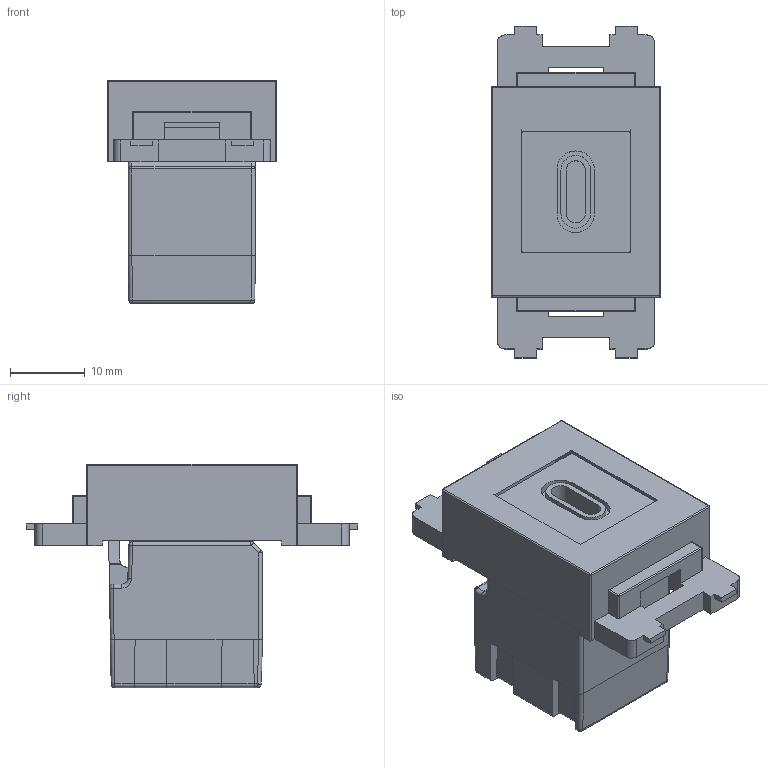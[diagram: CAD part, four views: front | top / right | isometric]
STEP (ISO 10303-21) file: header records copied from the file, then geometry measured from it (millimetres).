
FILE_DESCRIPTION(('FreeCAD Model'),'2;1');
FILE_NAME('Open CASCADE Shape Model','2026-05-12T09:44:00',(''),(''), 'Open CASCADE STEP processor 7.8','FreeCAD','Unknown');
FILE_SCHEMA(('AUTOMOTIVE_DESIGN { 1 0 10303 214 1 1 1 1 }'));
Length unit declared in the file: millimetre
Products named in the file (3): CC_USB3C_XX_KV_2; SY-NWT-KV-xx; SY-USB-31-C-WH
Assembly tree (2 placements, depth 2):
  CC_USB3C_XX_KV_2
    SY-NWT-KV-xx
    SY-USB-31-C-WH
Bounding box: 22.65 x 44.3 x 29.8 mm (x, y, z)
Volume: 12117.3 mm3; surface area: 7753.9 mm2
Topology: 4 solids, 4 shells, 284 faces, 1501 edges, 3502 vertices
Faces by surface type: bspline 284
Entity records: 28008 total; most frequent: CARTESIAN_POINT 19050, B_SPLINE_CURVE_WITH_KNOTS 1499, ORIENTED_EDGE 1478, GEOMETRIC_CURVE_SET 761, TRIMMED_CURVE 756, EDGE_CURVE 739, VERTEX_POINT 466, FACE_BOUND 293
